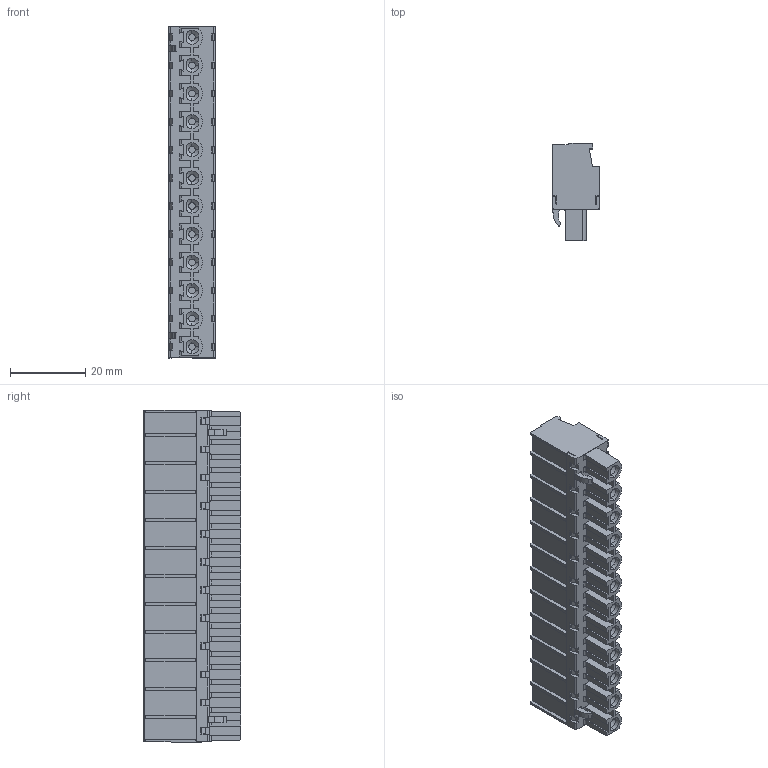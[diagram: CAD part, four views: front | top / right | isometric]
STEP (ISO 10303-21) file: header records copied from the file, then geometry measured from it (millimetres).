
FILE_DESCRIPTION (( 'STEP AP214' ), '1' );
FILE_NAME ('122-D-111-12.STEP', '2008-01-21T19:20:28', ( 'weco' ), ( 'weco' ), 'SwSTEP 2.0', 'SolidWorks 2007', '' );
FILE_SCHEMA (( 'AUTOMOTIVE_DESIGN' ));
Length unit declared in the file: millimetre
Products named in the file (1): 122-D-111-12
Bounding box: 12.5 x 25.9 x 88.5 mm (x, y, z)
Volume: 18079.4 mm3; surface area: 11150 mm2
Topology: 1 solids, 1 shells, 1478 faces, 4185 edges, 2686 vertices
Faces by surface type: plane 1124, cylinder 282, cone 72
Entity records: 47242 total; most frequent: CARTESIAN_POINT 8514, ORIENTED_EDGE 8370, DIRECTION 7715, EDGE_CURVE 4185, VECTOR 3533, LINE 3533, VERTEX_POINT 2686, AXIS2_PLACEMENT_3D 2091
